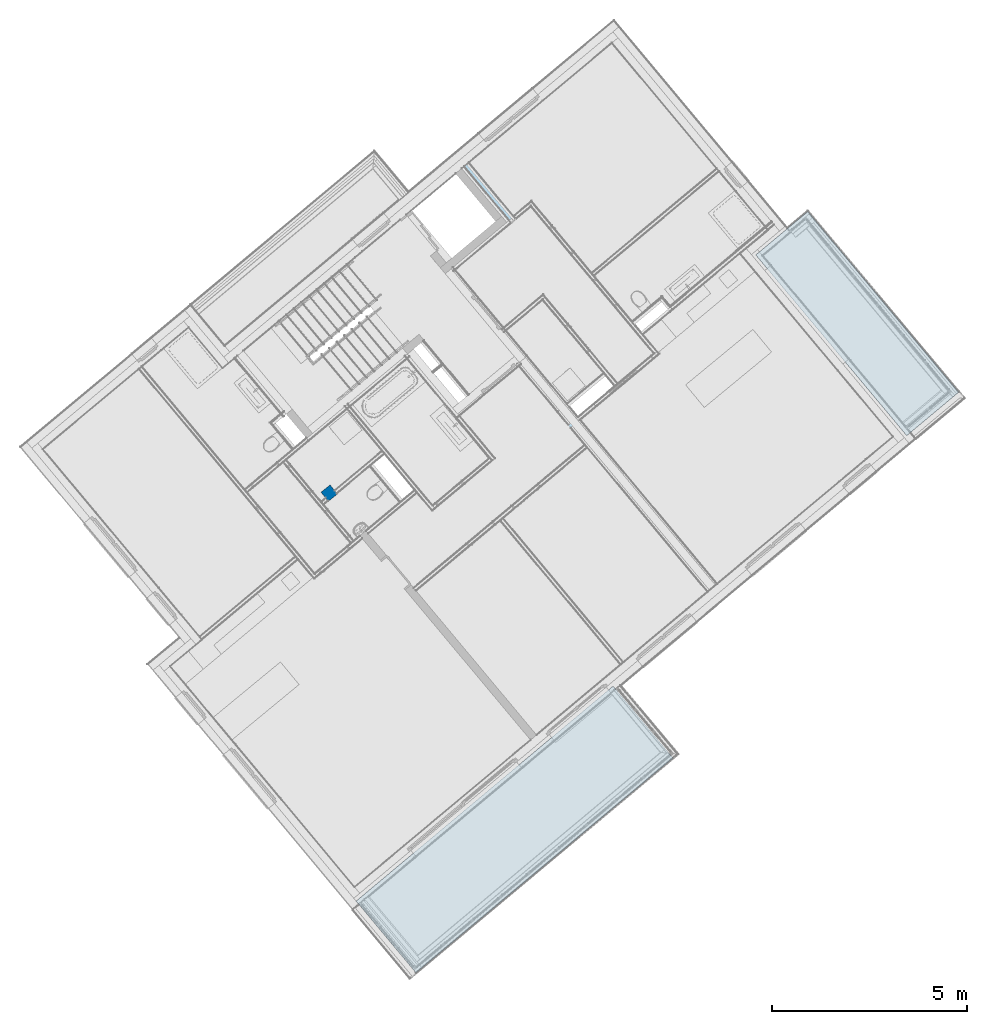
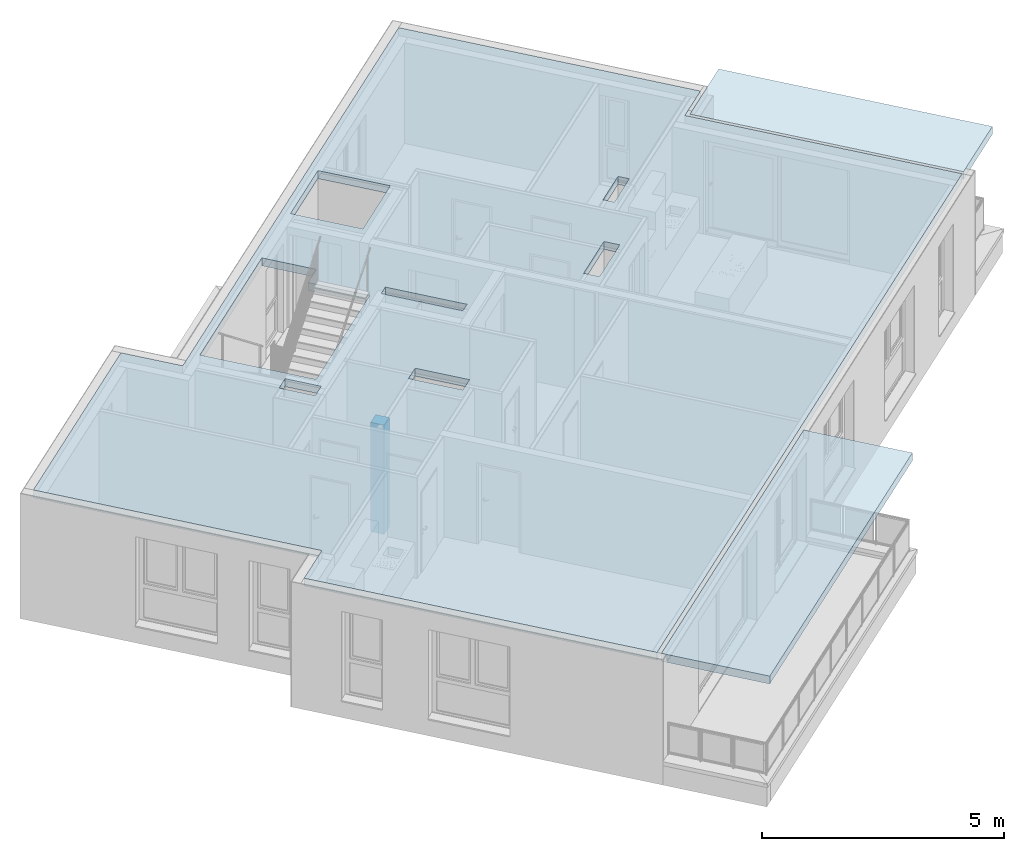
# One storey, part 7 of 50: 3 slabs, 1 column.
"""IFC4 building model written with IfcOpenShell, lengths in metres."""

import ifcopenshell
import ifcopenshell.guid

model = None  # the IFC model being written
_history = None  # IfcOwnerHistory: only IFC2X3 demands one
_inside = {}  # id of a spatial element -> (the spatial element, [elements in it])
_under = {}  # id of a project, library or spatial element -> (it, [spatial elements below it])
_declared = {}  # id of a project -> (the project, [libraries it declares])
_typed = {}  # id of a type object -> (the type object, [elements of that type])
_made_of = {}  # id of a material, layer set ... -> (it, [elements and type objects made of it])


def new_model(schema):
    """Start an empty IFC model of exactly this schema.

    Asked for "IFC4X3", IfcOpenShell would pick the latest addendum, in which some entities
    have other attributes; the version numbers below select the first issue.
    IFC2X3 requires an IfcOwnerHistory on every rooted entity: one is made here for all.
    """
    global model, _history
    if schema == "IFC4X3":
        model = ifcopenshell.file(schema_version=(4, 3, 0, 0))
    else:
        model = ifcopenshell.file(schema=schema)
    _inside.clear()
    _under.clear()
    _declared.clear()
    _typed.clear()
    _made_of.clear()
    _history = None
    if model.schema == "IFC2X3":
        org = make("IfcOrganization", Name="unknown")
        user = make(
            "IfcPersonAndOrganization",
            ThePerson=make("IfcPerson", FamilyName="unknown"),
            TheOrganization=org,
        )
        app = make(
            "IfcApplication",
            ApplicationDeveloper=org,
            Version="unknown",
            ApplicationFullName="unknown",
            ApplicationIdentifier="unknown",
        )
        _history = make(
            "IfcOwnerHistory",
            OwningUser=user,
            OwningApplication=app,
            ChangeAction="ADDED",
            CreationDate=0,
        )
    return model


def make(cls, **values):
    """One entity of the class cls with the attributes given. An attribute that is None is left unset."""
    return model.create_entity(
        cls, **{name: value for name, value in values.items() if value is not None}
    )


def entity(cls, *values):
    """Any entity or typed value of the class cls, its attributes in the order of the schema. None: left unset."""
    e = model.create_entity(cls)
    for i, value in enumerate(values):
        if value is not None:
            e[i] = value
    return e


def rooted(cls, **values):
    """An entity with a GlobalId (a new one), such as an element, a storey or a relation."""
    return make(cls, GlobalId=ifcopenshell.guid.new(), OwnerHistory=_history, **values)


def si_unit(unit_type, name, prefix=None):
    """IfcSIUnit, for example si_unit("LENGTHUNIT", "METRE", prefix="MILLI")."""
    return make("IfcSIUnit", UnitType=unit_type, Prefix=prefix, Name=name)


def converted_unit(unit_type, name, factor, base, dimensions=None, offset=None):
    """IfcConversionBasedUnit, such as the inch: factor (a typed value) times the base unit."""
    return make(
        "IfcConversionBasedUnit"
        if offset is None
        else "IfcConversionBasedUnitWithOffset",
        ConversionOffset=offset,
        Dimensions=None
        if dimensions is None
        else entity("IfcDimensionalExponents", *dimensions),
        UnitType=unit_type,
        Name=name,
        ConversionFactor=make(
            "IfcMeasureWithUnit", ValueComponent=factor, UnitComponent=base
        ),
    )


def derived_unit(unit_type, elements):
    """IfcDerivedUnit: a product of units, each with its exponent."""
    return make(
        "IfcDerivedUnit",
        Elements=[
            make("IfcDerivedUnitElement", Unit=unit, Exponent=power)
            for unit, power in elements
        ],
        UnitType=unit_type,
    )


def assignment(units):
    """IfcUnitAssignment: the units of a project."""
    return None if units is None else make("IfcUnitAssignment", Units=units)


def point(xyz):
    """IfcCartesianPoint."""
    return None if xyz is None else make("IfcCartesianPoint", Coordinates=xyz)


def direction(xyz):
    """IfcDirection."""
    return None if xyz is None else make("IfcDirection", DirectionRatios=xyz)


def frame(location, z_axis=None, x_axis=None):
    """IfcAxis2Placement3D, a coordinate frame: its origin and axes. An axis left out is left unset."""
    return make(
        "IfcAxis2Placement3D",
        Location=point(location),
        Axis=direction(z_axis),
        RefDirection=direction(x_axis),
    )


def origin_with_axes():
    """The frame at (0, 0, 0) with the z axis (0, 0, 1) and the x axis (1, 0, 0) written out."""
    return frame((0.0, 0.0, 0.0), z_axis=(0.0, 0.0, 1.0), x_axis=(1.0, 0.0, 0.0))


def place(relative_to, where):
    """IfcLocalPlacement: puts the frame where relative to a parent placement (None: the world)."""
    return make(
        "IfcLocalPlacement", PlacementRelTo=relative_to, RelativePlacement=where
    )


def context(
    kind, dimensions, precision=None, world=None, true_north=None, identifier=None
):
    """IfcGeometricRepresentationContext, for example the 3D "Model" context."""
    return make(
        "IfcGeometricRepresentationContext",
        ContextIdentifier=identifier,
        ContextType=kind,
        CoordinateSpaceDimension=dimensions,
        Precision=precision,
        WorldCoordinateSystem=world,
        TrueNorth=true_north,
    )


def subcontext(parent, identifier, kind, view, scale=None):
    """IfcGeometricRepresentationSubContext, for example "Body" below "Model"."""
    return make(
        "IfcGeometricRepresentationSubContext",
        ContextIdentifier=identifier,
        ContextType=kind,
        ParentContext=parent,
        TargetScale=scale,
        TargetView=view,
    )


def project(units=None, contexts=None):
    """IfcProject with its units and contexts."""
    return rooted(
        "IfcProject",
        Name="project",
        RepresentationContexts=contexts,
        UnitsInContext=assignment(units),
    )


def spatial(cls, under=None, at=None, **own):
    """A site, building, storey or space (cls), placed at a placement, below another one or the project."""
    s = rooted(cls, ObjectPlacement=at, **own)
    if under is not None:
        _under.setdefault(under.id(), (under, []))[1].append(s)
    return s


def point_list(points):
    """IfcCartesianPointList2D or 3D."""
    cls = (
        "IfcCartesianPointList2D" if len(points[0]) == 2 else "IfcCartesianPointList3D"
    )
    return make(cls, CoordList=points)


def polygons(points, faces, closed=None, point_numbers=None):
    """IfcPolygonalFaceSet: a face is its outer loop, then its inner loops; points numbered from 1."""
    made = []
    for loops in faces:
        if len(loops) == 1:
            made.append(make("IfcIndexedPolygonalFace", CoordIndex=loops[0]))
        else:
            made.append(
                make(
                    "IfcIndexedPolygonalFaceWithVoids",
                    CoordIndex=loops[0],
                    InnerCoordIndices=loops[1:],
                )
            )
    return make(
        "IfcPolygonalFaceSet",
        Coordinates=point_list(points),
        Closed=closed,
        Faces=made,
        PnIndex=point_numbers,
    )


def shape(context_of_items, identifier, shape_type, items):
    """IfcShapeRepresentation: the items that make up one representation, for example the "Body"."""
    return make(
        "IfcShapeRepresentation",
        ContextOfItems=context_of_items,
        RepresentationIdentifier=identifier,
        RepresentationType=shape_type,
        Items=items,
    )


def material(Name=None, Category=None):
    """IfcMaterial."""
    return make("IfcMaterial", Name=Name, Category=Category)


def made_of(thing, what):
    """Note that an element or type object is made of a material, layer set ...; save() writes the relation."""
    if what is not None:
        _made_of.setdefault(what.id(), (what, []))[1].append(thing)
    return thing


def type_object(cls, material=None, **own):
    """A type object (cls), such as IfcWallType, which elements share."""
    return made_of(rooted(cls, **own), material)


def element(
    cls,
    number,
    at=None,
    inside=None,
    cuts=None,
    type_object=None,
    material=None,
    context=None,
    identifier="Body",
    shape_type=None,
    held_by="IfcProductDefinitionShape",
    body=None,
    shapes=None,
    **own,
):
    """One element of the class cls, such as IfcWall. Its Tag is "e" and its number.

    at: its placement. inside: the storey or other place that contains it. cuts: it is an
    opening in that element (IfcRelVoidsElement). A single representation is given by context,
    identifier, shape_type and body (its items); several are given by shapes. held_by: the class
    of the entity that holds the representations. save() writes the other relations.
    """
    e = rooted(cls, Tag="e%d" % number, ObjectPlacement=at, **own)
    if body is not None:
        shapes = [shape(context, identifier, shape_type, body)]
    if shapes is not None:
        e.Representation = make(held_by, Representations=shapes)
    if inside is not None:
        _inside.setdefault(inside.id(), (inside, []))[1].append(e)
    if cuts is not None:
        rooted(
            "IfcRelVoidsElement", RelatingBuildingElement=cuts, RelatedOpeningElement=e
        )
    if type_object is not None:
        _typed.setdefault(type_object.id(), (type_object, []))[1].append(e)
    return made_of(e, material)


def aggregate(whole, parts):
    """IfcRelAggregates: a whole, such as a stair, and the parts it consists of."""
    return rooted("IfcRelAggregates", RelatingObject=whole, RelatedObjects=parts)


def save(model, path):
    """Write the relations noted so far, then the file.

    IfcRelAggregates (storeys below a building ...), IfcRelContainedInSpatialStructure (elements
    in a storey), IfcRelDefinesByType, IfcRelAssociatesMaterial and IfcRelDeclares: one each for
    every whole, place, type object, material and project.
    """
    for whole, parts in _under.values():
        aggregate(whole, parts)
    for where, things in _inside.values():
        rooted(
            "IfcRelContainedInSpatialStructure",
            RelatedElements=things,
            RelatingStructure=where,
        )
    for kind, things in _typed.values():
        rooted("IfcRelDefinesByType", RelatedObjects=things, RelatingType=kind)
    for what, things in _made_of.values():
        rooted("IfcRelAssociatesMaterial", RelatedObjects=things, RelatingMaterial=what)
    for by, libraries in _declared.values():
        rooted("IfcRelDeclares", RelatingContext=by, RelatedDefinitions=libraries)
    model.write(path)


model = new_model("IFC4")

# Units and contexts
model_context = context("Model", 3, precision=1e-05, world=origin_with_axes(), true_north=direction((0.0, 1.0)))
body_context = subcontext(model_context, "Body", "Model", "MODEL_VIEW")
ifc_project = project(units=[si_unit("LENGTHUNIT", "METRE"), si_unit("AREAUNIT", "SQUARE_METRE"), si_unit("VOLUMEUNIT", "CUBIC_METRE"), converted_unit("PLANEANGLEUNIT", "DEGREE", entity("IfcPlaneAngleMeasure", 0.0174532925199), si_unit("PLANEANGLEUNIT", "RADIAN"), dimensions=[0, 0, 0, 0, 0, 0, 0]), converted_unit("TIMEUNIT", "Year", entity("IfcTimeMeasure", 31556926.0), si_unit("TIMEUNIT", "SECOND"), dimensions=[0, 0, 1, 0, 0, 0, 0]), si_unit("MASSUNIT", "GRAM", prefix="KILO"), si_unit("THERMODYNAMICTEMPERATUREUNIT", "DEGREE_CELSIUS"), si_unit("LUMINOUSINTENSITYUNIT", "LUMEN"), si_unit("ENERGYUNIT", "JOULE", prefix="MEGA"), derived_unit("THERMALCONDUCTANCEUNIT", [(si_unit("POWERUNIT", "WATT"), 1), (si_unit("LENGTHUNIT", "METRE"), -1), (si_unit("THERMODYNAMICTEMPERATUREUNIT", "KELVIN"), -1)]), derived_unit("SPECIFICHEATCAPACITYUNIT", [(si_unit("ENERGYUNIT", "JOULE"), 1), (si_unit("MASSUNIT", "GRAM", prefix="KILO"), -1), (si_unit("THERMODYNAMICTEMPERATUREUNIT", "KELVIN"), -1)]), derived_unit("MASSDENSITYUNIT", [(si_unit("MASSUNIT", "GRAM", prefix="KILO"), 1), (si_unit("VOLUMEUNIT", "CUBIC_METRE"), -1)])], contexts=[model_context])

# Site, building, storey
site_placement = place(None, frame((-0.00153261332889, -0.00661245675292, 0.0), z_axis=(0.0, 0.0, 1.0), x_axis=(1.0, 0.0, 0.0)))
site = spatial("IfcSite", under=ifc_project, at=site_placement, Name="Site", CompositionType="ELEMENT")
building_placement = place(site_placement, origin_with_axes())
building = spatial("IfcBuilding", under=site, at=building_placement, Name="Building", CompositionType="ELEMENT")
storey_placement = place(building_placement, frame((0.0, 0.0, 2.74), z_axis=(0.0, 0.0, 1.0), x_axis=(1.0, 0.0, 0.0)))
storey = spatial("IfcBuildingStorey", under=building, at=storey_placement, Name="OG1", CompositionType="ELEMENT", Elevation=2.74)

# Column
ifc_material_1 = material(Name="Stahlbeton")
column_type = type_object("IfcColumnType", Name="Stahlbeton 300 x 300", PredefinedType="NOTDEFINED")
column_placement = place(storey_placement, frame((-1.63508592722, 18.8845477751, 0.0), z_axis=(0.0, 0.0, 1.0), x_axis=(0.776862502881, 0.62967027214, 0.0)))
element("IfcColumn", 1, at=column_placement, inside=storey, type_object=column_type, material=ifc_material_1, Name="Stütze-002", PredefinedType="NOTDEFINED", context=body_context, shape_type="Tessellation", body=[
    polygons([(0.15, -0.15, 2.76), (-0.15, -0.15, 2.76), (-0.15, -0.15, 0.0), (0.15, -0.15, 0.0), (0.15, 0.15, 2.76), (-0.15, 0.15, 2.76), (-0.15, 0.15, 0.0), (0.15, 0.15, 0.0)], [[[1, 2, 3, 4]], [[5, 6, 2, 1]], [[2, 6, 7, 3]], [[8, 4, 3, 7]], [[5, 1, 4, 8]], [[6, 5, 8, 7]]], closed=True),
])

# Slabs
ifc_material_2 = material(Name="Stahlbeton Decke")
slab_type = type_object("IfcSlabType", Name="Stahlbeton Decke 200", PredefinedType="NOTDEFINED")
slab_1_placement = place(storey_placement, frame((-9.25321199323, 20.0359436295, 2.96), z_axis=(0.0, 0.0, 1.0), x_axis=(1.0, 0.0, 0.0)))
element("IfcSlab", 2, at=slab_1_placement, inside=storey, type_object=slab_type, material=ifc_material_2, Name="Decke-005", PredefinedType="NOTDEFINED", context=body_context, shape_type="Tessellation", body=[
    polygons([(4.07665014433, -4.87872062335, 0.0), (0.0, 0.0, 0.0), (0.0, 0.0, -0.2), (4.07665014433, -4.87872062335, -0.2), (4.91680045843, 2.33426982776, 0.0), (4.04383630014, 3.37899544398, 0.0), (3.26020651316, -5.55747019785, 0.0), (8.24627027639, -11.5292856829, 0.0), (22.3482166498, 0.269879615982, 0.0), (18.4306387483, 4.95823093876, 0.0), (19.1505919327, 5.55982352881, 0.0), (14.885464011, 10.6640670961, 0.0), (8.66151722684, 3.63824574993, 0.0), (9.53351274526, 2.59478313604, 0.0), (7.06314257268, 0.530546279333, 0.0), (5.42163711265, 2.49501373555, 0.0), (8.28112859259, 4.88415112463, 0.0), (9.05053288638, 3.96327272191, 0.0), (6.75554469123, 0.0322142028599, 0.0), (6.24543082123, 0.642691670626, 0.0), (6.51828722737, 0.870689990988, 0.0), (7.02829317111, 0.260341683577, 0.0), (9.50268967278, -1.32098780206, 0.0), (8.73331585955, -0.400241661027, 0.0), (9.03663065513, -0.146792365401, 0.0), (9.80600446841, -1.06753850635, 0.0), (14.930655, 1.58962953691, 0.0), (13.994057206, 0.808009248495, 0.0), (13.7697528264, 1.07643551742, 0.0), (14.7058636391, 1.85864802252, 0.0), (10.932021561, 1.15544043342, 0.0), (9.77780938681, 2.53828509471, 0.0), (9.96625314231, 2.69581328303, 0.0), (11.1206759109, 1.31292774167, 0.0), (15.6042936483, 2.98097432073, 0.0), (15.4451269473, 3.17145666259, 0.0), (16.1334349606, 3.74660559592, 0.0), (16.2921456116, 3.55574217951, 0.0), (11.8825374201, 5.80764906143, 0.0), (10.6160002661, 4.74933290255, 0.0), (9.59311855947, 5.97464512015, 0.0), (10.8590745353, 7.03247564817, 0.0), (4.04383630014, 3.37899544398, -0.2), (3.26020651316, -5.55747019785, -0.2), (4.91680045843, 2.33426982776, -0.2), (14.885464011, 10.6640670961, -0.2), (19.1505919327, 5.55982352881, -0.2), (18.4306387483, 4.95823093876, -0.2), (22.3482166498, 0.269879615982, -0.2), (8.24627027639, -11.5292856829, -0.2), (8.28112859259, 4.88415112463, -0.2), (5.42163711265, 2.49501373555, -0.2), (7.06314257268, 0.530546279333, -0.2), (9.53351274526, 2.59478313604, -0.2), (8.66151722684, 3.63824574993, -0.2), (9.05053288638, 3.96327272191, -0.2), (6.75554469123, 0.0322142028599, -0.2), (7.02829317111, 0.260341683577, -0.2), (6.51828722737, 0.870689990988, -0.2), (6.24543082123, 0.642691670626, -0.2), (9.50268967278, -1.32098780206, -0.2), (9.80600446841, -1.06753850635, -0.2), (9.03663065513, -0.146792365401, -0.2), (8.73331585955, -0.400241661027, -0.2), (14.930655, 1.58962953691, -0.2), (14.7058636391, 1.85864802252, -0.2), (13.7697528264, 1.07643551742, -0.2), (13.994057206, 0.808009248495, -0.2), (10.932021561, 1.15544043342, -0.2), (11.1206759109, 1.31292774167, -0.2), (9.96625314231, 2.69581328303, -0.2), (9.77780938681, 2.53828509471, -0.2), (15.6042936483, 2.98097432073, -0.2), (16.2921456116, 3.55574217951, -0.2), (16.1334349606, 3.74660559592, -0.2), (15.4451269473, 3.17145666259, -0.2), (11.8825374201, 5.80764906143, -0.2), (10.8590745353, 7.03247564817, -0.2), (9.59311855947, 5.97464512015, -0.2), (10.6160002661, 4.74933290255, -0.2)], [[[1, 2, 3, 4]], [[5, 6, 2, 1, 7, 8, 9, 10, 11, 12], [13, 14, 15, 16, 17, 18], [19, 20, 21, 22], [23, 24, 25, 26], [27, 28, 29, 30], [31, 32, 33, 34], [35, 36, 37, 38], [39, 40, 41, 42]], [[2, 6, 43, 3]], [[44, 4, 3, 43, 45, 46, 47, 48, 49, 50], [51, 52, 53, 54, 55, 56], [57, 58, 59, 60], [61, 62, 63, 64], [65, 66, 67, 68], [69, 70, 71, 72], [73, 74, 75, 76], [77, 78, 79, 80]], [[7, 1, 4, 44]], [[6, 5, 45, 43]], [[8, 7, 44, 50]], [[9, 8, 50, 49]], [[10, 9, 49, 48]], [[11, 10, 48, 47]], [[12, 11, 47, 46]], [[5, 12, 46, 45]], [[14, 13, 55, 54]], [[15, 14, 54, 53]], [[16, 15, 53, 52]], [[17, 16, 52, 51]], [[18, 17, 51, 56]], [[13, 18, 56, 55]], [[20, 19, 57, 60]], [[21, 20, 60, 59]], [[22, 21, 59, 58]], [[19, 22, 58, 57]], [[24, 23, 61, 64]], [[25, 24, 64, 63]], [[26, 25, 63, 62]], [[23, 26, 62, 61]], [[28, 27, 65, 68]], [[29, 28, 68, 67]], [[30, 29, 67, 66]], [[27, 30, 66, 65]], [[32, 31, 69, 72]], [[33, 32, 72, 71]], [[34, 33, 71, 70]], [[31, 34, 70, 69]], [[36, 35, 73, 76]], [[37, 36, 76, 75]], [[38, 37, 75, 74]], [[35, 38, 74, 73]], [[40, 39, 77, 80]], [[41, 40, 80, 79]], [[42, 41, 79, 78]], [[39, 42, 78, 77]]], closed=True),
])
slab_2_placement = place(storey_placement, frame((-0.94615598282, 8.43364053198, 2.96), z_axis=(0.0, 0.0, 1.0), x_axis=(1.0, 0.0, 0.0)))
element("IfcSlab", 3, at=slab_2_placement, inside=storey, type_object=slab_type, material=ifc_material_2, Name="Decke-005", PredefinedType="NOTDEFINED", context=body_context, shape_type="Tessellation", body=[
    polygons([(0.0, 0.0, 0.0), (0.0, 0.0, -0.2), (1.5312027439, -1.83370925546, -0.2), (1.5312027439, -1.83370925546, 0.0), (6.58003248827, 5.5055349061, 0.0), (6.58003248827, 5.5055349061, -0.2), (8.11338479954, 3.66770283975, -0.2), (8.02914256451, 3.59595752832, -0.2), (8.02914256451, 3.59595752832, 0.0), (8.11338479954, 3.66770283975, 0.0)], [[[1, 2, 3, 4]], [[5, 6, 2, 1]], [[3, 2, 6, 7, 8]], [[4, 3, 8, 9]], [[5, 1, 4, 9, 10]], [[10, 7, 6, 5]], [[9, 8, 7, 10]]], closed=True),
])
slab_3_placement = place(storey_placement, frame((13.1563939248, 20.357120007, 2.96), z_axis=(0.0, 0.0, 1.0), x_axis=(1.0, 0.0, 0.0)))
element("IfcSlab", 4, at=slab_3_placement, inside=storey, type_object=slab_type, material=ifc_material_2, Name="Decke-005", PredefinedType="NOTDEFINED", context=body_context, shape_type="Tessellation", body=[
    polygons([(0.0, 0.0, 0.0), (0.0, 0.0, -0.2), (1.33147157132, 1.11257523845, -0.2), (1.33147157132, 1.11257523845, 0.0), (-3.86628113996, 4.62696205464, 0.0), (-3.86628113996, 4.62696205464, -0.2), (-2.53479063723, 5.73955311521, -0.2), (-2.53479063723, 5.73955311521, 0.0)], [[[1, 2, 3, 4]], [[5, 6, 2, 1]], [[3, 2, 6, 7]], [[4, 3, 7, 8]], [[5, 1, 4, 8]], [[8, 7, 6, 5]]], closed=True),
])

save(model, "model.ifc")
